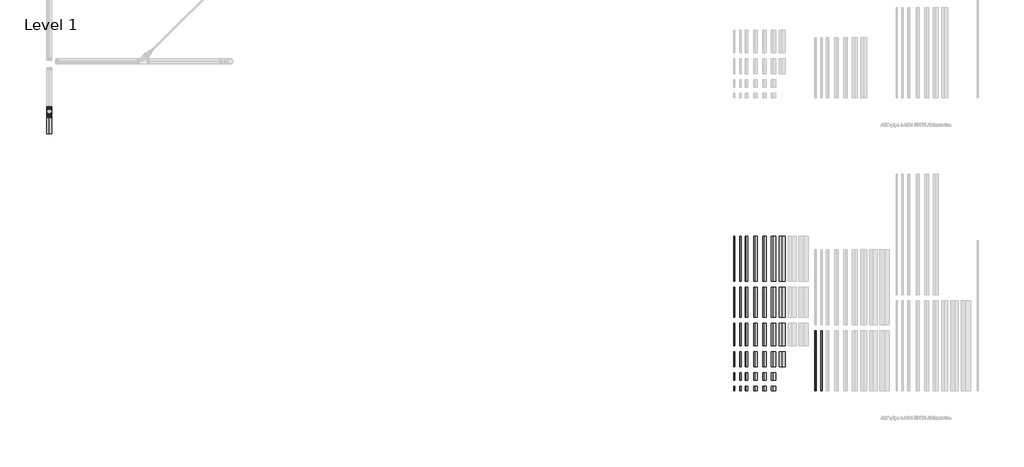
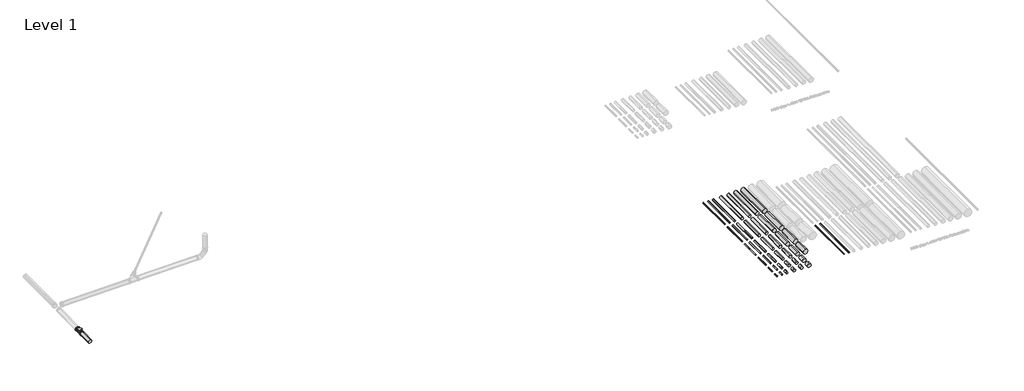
# One storey, part 1 of 13: 43 pipe segments, 3 pipe fittings.
"""IFC4 building model written with IfcOpenShell, lengths in millimetres."""

from ifc_helpers import new_model, si_unit, point, frame, frame_2d, origin, place, context, project, spatial, circle_curve, trimmed, segment, composite_curve, outline, extrude, transform, mapped, element, save
from components import pipe_fitting_1_4404_c54c82ae, std_nested_70f44cd0, std_nested_4988e8d9

model = new_model("IFC4")

# Units and contexts
model_context = context("Model", 3, world=origin())
ifc_project = project(units=[si_unit("LENGTHUNIT", "METRE", prefix="MILLI")], contexts=[model_context])

# Site, building, storey
site = spatial("IfcSite", under=ifc_project)
building = spatial("IfcBuilding", under=site)
storey = spatial("IfcBuildingStorey", under=building, Name="Level 1", Elevation=0.0)

# Pipe fittings
placement = place(None, origin())
pipe_fitting_1_4404_shape = pipe_fitting_1_4404_c54c82ae(model_context)
element("IfcPipeFitting", 1, ObjectType="PIF_ST_UN_ACO pipe access unit_ACO : 1.4404", at=placement, inside=storey, context=model_context, shape_type="MappedRepresentation", body=[
    mapped(pipe_fitting_1_4404_shape, transform((-24468.5517039, -490.1216997, 11.972552), x_axis=(0.0, 0.9998798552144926, 0.015500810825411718), y_axis=(-1.0000000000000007, 0.0, 0.0), z_axis=(0.0, -0.015500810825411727, 0.9998798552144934))),
])
std_nested_shape = std_nested_70f44cd0(model_context)
element("IfcPipeFitting", 2, ObjectType="ZZZ_do not use_PIF_ST_UN_ACO pipe socket_ACO : std (nested)", at=placement, inside=storey, context=model_context, shape_type="MappedRepresentation", body=[
    mapped(std_nested_shape, transform((-24468.5517039, -674.099593, 9.1204028), x_axis=(0.0, -0.9998798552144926, -0.015500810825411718), y_axis=(-1.0000000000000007, 0.0, 0.0), z_axis=(0.0, 0.015500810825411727, -0.9998798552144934))),
])
std_nested_2_shape = std_nested_4988e8d9(model_context)
element("IfcPipeFitting", 3, ObjectType="ZZZ_do not use_PIF_ST_UN_ACO pipe socket_ACO : std (nested)", at=placement, inside=storey, context=model_context, shape_type="MappedRepresentation", body=[
    mapped(std_nested_2_shape, transform((-24468.5517039, -386.1341947, 13.5846364), x_axis=(0.0, 0.9998798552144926, 0.015500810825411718), y_axis=(1.0000000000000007, 0.0, 0.0), z_axis=(0.0, 0.015500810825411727, -0.9998798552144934))),
])

# Pipe segments
element("IfcPipeSegment", 4, ObjectType="ACO pipe 1.4404 OD (complex)", at=placement, inside=storey, context=model_context, shape_type="SweptSolid", body=[
    extrude(outline(composite_curve([segment(trimmed(circle_curve(frame_2d((0.0, -1678.2538939)), 20.0), [point((0.0, -1658.2538939))], [point((20.0, -1678.2538939))], False, "CARTESIAN"), True, "CONTINUOUS"), segment(trimmed(circle_curve(frame_2d((0.0, -1678.2538939)), 20.0), [point((20.0, -1678.2538939))], [point((0.0, -1698.2538939))], False, "CARTESIAN"), True, "CONTINUOUS"), segment(trimmed(circle_curve(frame_2d((0.0, -1678.2538939)), 20.0), [point((0.0, -1698.2538939))], [point((-20.0, -1678.2538939))], False, "CARTESIAN"), True, "CONTINUOUS"), segment(trimmed(circle_curve(frame_2d((0.0, -1678.2538939)), 20.0), [point((-20.0, -1678.2538939))], [point((0.0, -1658.2538939))], False, "CARTESIAN"), True, "CONTINUOUS")], self_intersect=False)), frame((0.0, -9769.2114353, 0.0), z_axis=(0.0, 1.0, 0.0), x_axis=(0.0, 0.0, 1.0)), (0.0, 0.0, 1.0), 150.0),
])
element("IfcPipeSegment", 5, ObjectType="ACO pipe 1.4404 OD (complex)", at=placement, inside=storey, context=model_context, shape_type="SweptSolid", body=[
    extrude(outline(composite_curve([segment(trimmed(circle_curve(frame_2d((0.0, -1478.2538939)), 25.0), [point((0.0, -1453.2538939))], [point((25.0, -1478.2538939))], False, "CARTESIAN"), True, "CONTINUOUS"), segment(trimmed(circle_curve(frame_2d((0.0, -1478.2538939)), 25.0), [point((25.0, -1478.2538939))], [point((0.0, -1503.2538939))], False, "CARTESIAN"), True, "CONTINUOUS"), segment(trimmed(circle_curve(frame_2d((0.0, -1478.2538939)), 25.0), [point((0.0, -1503.2538939))], [point((-25.0, -1478.2538939))], False, "CARTESIAN"), True, "CONTINUOUS"), segment(trimmed(circle_curve(frame_2d((0.0, -1478.2538939)), 25.0), [point((-25.0, -1478.2538939))], [point((0.0, -1453.2538939))], False, "CARTESIAN"), True, "CONTINUOUS")], self_intersect=False)), frame((0.0, -9769.2114353, 0.0), z_axis=(0.0, 1.0, 0.0), x_axis=(0.0, 0.0, 1.0)), (0.0, 0.0, 1.0), 150.0),
])
element("IfcPipeSegment", 6, ObjectType="ACO pipe 1.4404 OD (complex)", at=placement, inside=storey, context=model_context, shape_type="SweptSolid", body=[
    extrude(outline(composite_curve([segment(trimmed(circle_curve(frame_2d((0.0, -1278.2538939)), 37.5), [point((0.0, -1240.7538939))], [point((37.5, -1278.2538939))], False, "CARTESIAN"), True, "CONTINUOUS"), segment(trimmed(circle_curve(frame_2d((0.0, -1278.2538939)), 37.5), [point((37.5, -1278.2538939))], [point((0.0, -1315.7538939))], False, "CARTESIAN"), True, "CONTINUOUS"), segment(trimmed(circle_curve(frame_2d((0.0, -1278.2538939)), 37.5), [point((0.0, -1315.7538939))], [point((-37.5, -1278.2538939))], False, "CARTESIAN"), True, "CONTINUOUS"), segment(trimmed(circle_curve(frame_2d((0.0, -1278.2538939)), 37.5), [point((-37.5, -1278.2538939))], [point((0.0, -1240.7538939))], False, "CARTESIAN"), True, "CONTINUOUS")], self_intersect=False)), frame((0.0, -9769.2114353, 0.0), z_axis=(0.0, 1.0, 0.0), x_axis=(0.0, 0.0, 1.0)), (0.0, 0.0, 1.0), 150.0),
])
element("IfcPipeSegment", 7, ObjectType="ACO pipe 1.4404 OD (complex)", at=placement, inside=storey, context=model_context, shape_type="SweptSolid", body=[
    extrude(outline(composite_curve([segment(trimmed(circle_curve(frame_2d((0.0, -978.2538939)), 55.0), [point((0.0, -923.2538939))], [point((55.0, -978.2538939))], False, "CARTESIAN"), True, "CONTINUOUS"), segment(trimmed(circle_curve(frame_2d((0.0, -978.2538939)), 55.0), [point((55.0, -978.2538939))], [point((0.0, -1033.2538939))], False, "CARTESIAN"), True, "CONTINUOUS"), segment(trimmed(circle_curve(frame_2d((0.0, -978.2538939)), 55.0), [point((0.0, -1033.2538939))], [point((-55.0, -978.2538939))], False, "CARTESIAN"), True, "CONTINUOUS"), segment(trimmed(circle_curve(frame_2d((0.0, -978.2538939)), 55.0), [point((-55.0, -978.2538939))], [point((0.0, -923.2538939))], False, "CARTESIAN"), True, "CONTINUOUS")], self_intersect=False)), frame((0.0, -9769.2114353, 0.0), z_axis=(0.0, 1.0, 0.0), x_axis=(0.0, 0.0, 1.0)), (0.0, 0.0, 1.0), 150.0),
])
element("IfcPipeSegment", 8, ObjectType="ACO pipe 1.4404 OD (complex)", at=placement, inside=storey, context=model_context, shape_type="SweptSolid", body=[
    extrude(outline(composite_curve([segment(trimmed(circle_curve(frame_2d((0.0, -678.2538939)), 62.5), [point((0.0, -615.7538939))], [point((62.5, -678.2538939))], False, "CARTESIAN"), True, "CONTINUOUS"), segment(trimmed(circle_curve(frame_2d((0.0, -678.2538939)), 62.5), [point((62.5, -678.2538939))], [point((0.0, -740.7538939))], False, "CARTESIAN"), True, "CONTINUOUS"), segment(trimmed(circle_curve(frame_2d((0.0, -678.2538939)), 62.5), [point((0.0, -740.7538939))], [point((-62.5, -678.2538939))], False, "CARTESIAN"), True, "CONTINUOUS"), segment(trimmed(circle_curve(frame_2d((0.0, -678.2538939)), 62.5), [point((-62.5, -678.2538939))], [point((0.0, -615.7538939))], False, "CARTESIAN"), True, "CONTINUOUS")], self_intersect=False)), frame((0.0, -9769.2114353, 0.0), z_axis=(0.0, 1.0, 0.0), x_axis=(0.0, 0.0, 1.0)), (0.0, 0.0, 1.0), 150.0),
])
element("IfcPipeSegment", 9, ObjectType="ACO pipe 1.4404 OD (complex)", at=placement, inside=storey, context=model_context, shape_type="SweptSolid", body=[
    extrude(outline(composite_curve([segment(trimmed(circle_curve(frame_2d((0.0, -378.2538939)), 80.0), [point((0.0, -298.2538939))], [point((80.0, -378.2538939))], False, "CARTESIAN"), True, "CONTINUOUS"), segment(trimmed(circle_curve(frame_2d((0.0, -378.2538939)), 80.0), [point((80.0, -378.2538939))], [point((0.0, -458.2538939))], False, "CARTESIAN"), True, "CONTINUOUS"), segment(trimmed(circle_curve(frame_2d((0.0, -378.2538939)), 80.0), [point((0.0, -458.2538939))], [point((-80.0, -378.2538939))], False, "CARTESIAN"), True, "CONTINUOUS"), segment(trimmed(circle_curve(frame_2d((0.0, -378.2538939)), 80.0), [point((-80.0, -378.2538939))], [point((0.0, -298.2538939))], False, "CARTESIAN"), True, "CONTINUOUS")], self_intersect=False)), frame((0.0, -9769.2114353, 0.0), z_axis=(0.0, 1.0, 0.0), x_axis=(0.0, 0.0, 1.0)), (0.0, 0.0, 1.0), 150.0),
])
element("IfcPipeSegment", 10, ObjectType="ACO pipe 1.4404 OD (complex)", at=placement, inside=storey, context=model_context, shape_type="SweptSolid", body=[
    extrude(outline(composite_curve([segment(trimmed(circle_curve(frame_2d((0.0, -1678.2538939)), 20.0), [point((0.0, -1658.2538939))], [point((20.0, -1678.2538939))], False, "CARTESIAN"), True, "CONTINUOUS"), segment(trimmed(circle_curve(frame_2d((0.0, -1678.2538939)), 20.0), [point((20.0, -1678.2538939))], [point((0.0, -1698.2538939))], False, "CARTESIAN"), True, "CONTINUOUS"), segment(trimmed(circle_curve(frame_2d((0.0, -1678.2538939)), 20.0), [point((0.0, -1698.2538939))], [point((-20.0, -1678.2538939))], False, "CARTESIAN"), True, "CONTINUOUS"), segment(trimmed(circle_curve(frame_2d((0.0, -1678.2538939)), 20.0), [point((-20.0, -1678.2538939))], [point((0.0, -1658.2538939))], False, "CARTESIAN"), True, "CONTINUOUS")], self_intersect=False)), frame((0.0, -9419.2114353, 0.0), z_axis=(0.0, 1.0, 0.0), x_axis=(0.0, 0.0, 1.0)), (0.0, 0.0, 1.0), 250.0),
])
element("IfcPipeSegment", 11, ObjectType="ACO pipe 1.4404 OD (complex)", at=placement, inside=storey, context=model_context, shape_type="SweptSolid", body=[
    extrude(outline(composite_curve([segment(trimmed(circle_curve(frame_2d((0.0, -1478.2538939)), 25.0), [point((0.0, -1453.2538939))], [point((25.0, -1478.2538939))], False, "CARTESIAN"), True, "CONTINUOUS"), segment(trimmed(circle_curve(frame_2d((0.0, -1478.2538939)), 25.0), [point((25.0, -1478.2538939))], [point((0.0, -1503.2538939))], False, "CARTESIAN"), True, "CONTINUOUS"), segment(trimmed(circle_curve(frame_2d((0.0, -1478.2538939)), 25.0), [point((0.0, -1503.2538939))], [point((-25.0, -1478.2538939))], False, "CARTESIAN"), True, "CONTINUOUS"), segment(trimmed(circle_curve(frame_2d((0.0, -1478.2538939)), 25.0), [point((-25.0, -1478.2538939))], [point((0.0, -1453.2538939))], False, "CARTESIAN"), True, "CONTINUOUS")], self_intersect=False)), frame((0.0, -9419.2114353, 0.0), z_axis=(0.0, 1.0, 0.0), x_axis=(0.0, 0.0, 1.0)), (0.0, 0.0, 1.0), 250.0),
])
element("IfcPipeSegment", 12, ObjectType="ACO pipe 1.4404 OD (complex)", at=placement, inside=storey, context=model_context, shape_type="SweptSolid", body=[
    extrude(outline(composite_curve([segment(trimmed(circle_curve(frame_2d((0.0, -1278.2538939)), 37.5), [point((0.0, -1240.7538939))], [point((37.5, -1278.2538939))], False, "CARTESIAN"), True, "CONTINUOUS"), segment(trimmed(circle_curve(frame_2d((0.0, -1278.2538939)), 37.5), [point((37.5, -1278.2538939))], [point((0.0, -1315.7538939))], False, "CARTESIAN"), True, "CONTINUOUS"), segment(trimmed(circle_curve(frame_2d((0.0, -1278.2538939)), 37.5), [point((0.0, -1315.7538939))], [point((-37.5, -1278.2538939))], False, "CARTESIAN"), True, "CONTINUOUS"), segment(trimmed(circle_curve(frame_2d((0.0, -1278.2538939)), 37.5), [point((-37.5, -1278.2538939))], [point((0.0, -1240.7538939))], False, "CARTESIAN"), True, "CONTINUOUS")], self_intersect=False)), frame((0.0, -9419.2114353, 0.0), z_axis=(0.0, 1.0, 0.0), x_axis=(0.0, 0.0, 1.0)), (0.0, 0.0, 1.0), 250.0),
])
element("IfcPipeSegment", 13, ObjectType="ACO pipe 1.4404 OD (complex)", at=placement, inside=storey, context=model_context, shape_type="SweptSolid", body=[
    extrude(outline(composite_curve([segment(trimmed(circle_curve(frame_2d((0.0, -978.2538939)), 55.0), [point((0.0, -923.2538939))], [point((55.0, -978.2538939))], False, "CARTESIAN"), True, "CONTINUOUS"), segment(trimmed(circle_curve(frame_2d((0.0, -978.2538939)), 55.0), [point((55.0, -978.2538939))], [point((0.0, -1033.2538939))], False, "CARTESIAN"), True, "CONTINUOUS"), segment(trimmed(circle_curve(frame_2d((0.0, -978.2538939)), 55.0), [point((0.0, -1033.2538939))], [point((-55.0, -978.2538939))], False, "CARTESIAN"), True, "CONTINUOUS"), segment(trimmed(circle_curve(frame_2d((0.0, -978.2538939)), 55.0), [point((-55.0, -978.2538939))], [point((0.0, -923.2538939))], False, "CARTESIAN"), True, "CONTINUOUS")], self_intersect=False)), frame((0.0, -9419.2114353, 0.0), z_axis=(0.0, 1.0, 0.0), x_axis=(0.0, 0.0, 1.0)), (0.0, 0.0, 1.0), 250.0),
])
element("IfcPipeSegment", 14, ObjectType="ACO pipe 1.4404 OD (complex)", at=placement, inside=storey, context=model_context, shape_type="SweptSolid", body=[
    extrude(outline(composite_curve([segment(trimmed(circle_curve(frame_2d((0.0, -678.2538939)), 62.5), [point((0.0, -615.7538939))], [point((62.5, -678.2538939))], False, "CARTESIAN"), True, "CONTINUOUS"), segment(trimmed(circle_curve(frame_2d((0.0, -678.2538939)), 62.5), [point((62.5, -678.2538939))], [point((0.0, -740.7538939))], False, "CARTESIAN"), True, "CONTINUOUS"), segment(trimmed(circle_curve(frame_2d((0.0, -678.2538939)), 62.5), [point((0.0, -740.7538939))], [point((-62.5, -678.2538939))], False, "CARTESIAN"), True, "CONTINUOUS"), segment(trimmed(circle_curve(frame_2d((0.0, -678.2538939)), 62.5), [point((-62.5, -678.2538939))], [point((0.0, -615.7538939))], False, "CARTESIAN"), True, "CONTINUOUS")], self_intersect=False)), frame((0.0, -9419.2114353, 0.0), z_axis=(0.0, 1.0, 0.0), x_axis=(0.0, 0.0, 1.0)), (0.0, 0.0, 1.0), 250.0),
])
element("IfcPipeSegment", 15, ObjectType="ACO pipe 1.4404 OD (complex)", at=placement, inside=storey, context=model_context, shape_type="SweptSolid", body=[
    extrude(outline(composite_curve([segment(trimmed(circle_curve(frame_2d((0.0, -378.2538939)), 80.0), [point((0.0, -298.2538939))], [point((80.0, -378.2538939))], False, "CARTESIAN"), True, "CONTINUOUS"), segment(trimmed(circle_curve(frame_2d((0.0, -378.2538939)), 80.0), [point((80.0, -378.2538939))], [point((0.0, -458.2538939))], False, "CARTESIAN"), True, "CONTINUOUS"), segment(trimmed(circle_curve(frame_2d((0.0, -378.2538939)), 80.0), [point((0.0, -458.2538939))], [point((-80.0, -378.2538939))], False, "CARTESIAN"), True, "CONTINUOUS"), segment(trimmed(circle_curve(frame_2d((0.0, -378.2538939)), 80.0), [point((-80.0, -378.2538939))], [point((0.0, -298.2538939))], False, "CARTESIAN"), True, "CONTINUOUS")], self_intersect=False)), frame((0.0, -9419.2114353, 0.0), z_axis=(0.0, 1.0, 0.0), x_axis=(0.0, 0.0, 1.0)), (0.0, 0.0, 1.0), 250.0),
])
element("IfcPipeSegment", 16, ObjectType="ACO pipe 1.4404 OD (complex)", at=placement, inside=storey, context=model_context, shape_type="SweptSolid", body=[
    extrude(outline(composite_curve([segment(trimmed(circle_curve(frame_2d((0.0, -1678.2538939)), 20.0), [point((0.0, -1658.2538939))], [point((20.0, -1678.2538939))], False, "CARTESIAN"), True, "CONTINUOUS"), segment(trimmed(circle_curve(frame_2d((0.0, -1678.2538939)), 20.0), [point((20.0, -1678.2538939))], [point((0.0, -1698.2538939))], False, "CARTESIAN"), True, "CONTINUOUS"), segment(trimmed(circle_curve(frame_2d((0.0, -1678.2538939)), 20.0), [point((0.0, -1698.2538939))], [point((-20.0, -1678.2538939))], False, "CARTESIAN"), True, "CONTINUOUS"), segment(trimmed(circle_curve(frame_2d((0.0, -1678.2538939)), 20.0), [point((-20.0, -1678.2538939))], [point((0.0, -1658.2538939))], False, "CARTESIAN"), True, "CONTINUOUS")], self_intersect=False)), frame((0.0, -8969.2114353, 0.0), z_axis=(0.0, 1.0, 0.0), x_axis=(0.0, 0.0, 1.0)), (0.0, 0.0, 1.0), 500.0),
])
element("IfcPipeSegment", 17, ObjectType="ACO pipe 1.4404 OD (complex)", at=placement, inside=storey, context=model_context, shape_type="SweptSolid", body=[
    extrude(outline(composite_curve([segment(trimmed(circle_curve(frame_2d((0.0, -1478.2538939)), 25.0), [point((0.0, -1453.2538939))], [point((25.0, -1478.2538939))], False, "CARTESIAN"), True, "CONTINUOUS"), segment(trimmed(circle_curve(frame_2d((0.0, -1478.2538939)), 25.0), [point((25.0, -1478.2538939))], [point((0.0, -1503.2538939))], False, "CARTESIAN"), True, "CONTINUOUS"), segment(trimmed(circle_curve(frame_2d((0.0, -1478.2538939)), 25.0), [point((0.0, -1503.2538939))], [point((-25.0, -1478.2538939))], False, "CARTESIAN"), True, "CONTINUOUS"), segment(trimmed(circle_curve(frame_2d((0.0, -1478.2538939)), 25.0), [point((-25.0, -1478.2538939))], [point((0.0, -1453.2538939))], False, "CARTESIAN"), True, "CONTINUOUS")], self_intersect=False)), frame((0.0, -8969.2114353, 0.0), z_axis=(0.0, 1.0, 0.0), x_axis=(0.0, 0.0, 1.0)), (0.0, 0.0, 1.0), 500.0),
])
element("IfcPipeSegment", 18, ObjectType="ACO pipe 1.4404 OD (complex)", at=placement, inside=storey, context=model_context, shape_type="SweptSolid", body=[
    extrude(outline(composite_curve([segment(trimmed(circle_curve(frame_2d((0.0, -1278.2538939)), 37.5), [point((0.0, -1240.7538939))], [point((37.5, -1278.2538939))], False, "CARTESIAN"), True, "CONTINUOUS"), segment(trimmed(circle_curve(frame_2d((0.0, -1278.2538939)), 37.5), [point((37.5, -1278.2538939))], [point((0.0, -1315.7538939))], False, "CARTESIAN"), True, "CONTINUOUS"), segment(trimmed(circle_curve(frame_2d((0.0, -1278.2538939)), 37.5), [point((0.0, -1315.7538939))], [point((-37.5, -1278.2538939))], False, "CARTESIAN"), True, "CONTINUOUS"), segment(trimmed(circle_curve(frame_2d((0.0, -1278.2538939)), 37.5), [point((-37.5, -1278.2538939))], [point((0.0, -1240.7538939))], False, "CARTESIAN"), True, "CONTINUOUS")], self_intersect=False)), frame((0.0, -8969.2114353, 0.0), z_axis=(0.0, 1.0, 0.0), x_axis=(0.0, 0.0, 1.0)), (0.0, 0.0, 1.0), 500.0),
])
element("IfcPipeSegment", 19, ObjectType="ACO pipe 1.4404 OD (complex)", at=placement, inside=storey, context=model_context, shape_type="SweptSolid", body=[
    extrude(outline(composite_curve([segment(trimmed(circle_curve(frame_2d((0.0, -978.2538939)), 55.0), [point((0.0, -923.2538939))], [point((55.0, -978.2538939))], False, "CARTESIAN"), True, "CONTINUOUS"), segment(trimmed(circle_curve(frame_2d((0.0, -978.2538939)), 55.0), [point((55.0, -978.2538939))], [point((0.0, -1033.2538939))], False, "CARTESIAN"), True, "CONTINUOUS"), segment(trimmed(circle_curve(frame_2d((0.0, -978.2538939)), 55.0), [point((0.0, -1033.2538939))], [point((-55.0, -978.2538939))], False, "CARTESIAN"), True, "CONTINUOUS"), segment(trimmed(circle_curve(frame_2d((0.0, -978.2538939)), 55.0), [point((-55.0, -978.2538939))], [point((0.0, -923.2538939))], False, "CARTESIAN"), True, "CONTINUOUS")], self_intersect=False)), frame((0.0, -8969.2114353, 0.0), z_axis=(0.0, 1.0, 0.0), x_axis=(0.0, 0.0, 1.0)), (0.0, 0.0, 1.0), 500.0),
])
element("IfcPipeSegment", 20, ObjectType="ACO pipe 1.4404 OD (complex)", at=placement, inside=storey, context=model_context, shape_type="SweptSolid", body=[
    extrude(outline(composite_curve([segment(trimmed(circle_curve(frame_2d((0.0, -678.2538939)), 62.5), [point((0.0, -615.7538939))], [point((62.5, -678.2538939))], False, "CARTESIAN"), True, "CONTINUOUS"), segment(trimmed(circle_curve(frame_2d((0.0, -678.2538939)), 62.5), [point((62.5, -678.2538939))], [point((0.0, -740.7538939))], False, "CARTESIAN"), True, "CONTINUOUS"), segment(trimmed(circle_curve(frame_2d((0.0, -678.2538939)), 62.5), [point((0.0, -740.7538939))], [point((-62.5, -678.2538939))], False, "CARTESIAN"), True, "CONTINUOUS"), segment(trimmed(circle_curve(frame_2d((0.0, -678.2538939)), 62.5), [point((-62.5, -678.2538939))], [point((0.0, -615.7538939))], False, "CARTESIAN"), True, "CONTINUOUS")], self_intersect=False)), frame((0.0, -8969.2114353, 0.0), z_axis=(0.0, 1.0, 0.0), x_axis=(0.0, 0.0, 1.0)), (0.0, 0.0, 1.0), 500.0),
])
element("IfcPipeSegment", 21, ObjectType="ACO pipe 1.4404 OD (complex)", at=placement, inside=storey, context=model_context, shape_type="SweptSolid", body=[
    extrude(outline(composite_curve([segment(trimmed(circle_curve(frame_2d((0.0, -378.2538939)), 80.0), [point((0.0, -298.2538939))], [point((80.0, -378.2538939))], False, "CARTESIAN"), True, "CONTINUOUS"), segment(trimmed(circle_curve(frame_2d((0.0, -378.2538939)), 80.0), [point((80.0, -378.2538939))], [point((0.0, -458.2538939))], False, "CARTESIAN"), True, "CONTINUOUS"), segment(trimmed(circle_curve(frame_2d((0.0, -378.2538939)), 80.0), [point((0.0, -458.2538939))], [point((-80.0, -378.2538939))], False, "CARTESIAN"), True, "CONTINUOUS"), segment(trimmed(circle_curve(frame_2d((0.0, -378.2538939)), 80.0), [point((-80.0, -378.2538939))], [point((0.0, -298.2538939))], False, "CARTESIAN"), True, "CONTINUOUS")], self_intersect=False)), frame((0.0, -8969.2114353, 0.0), z_axis=(0.0, 1.0, 0.0), x_axis=(0.0, 0.0, 1.0)), (0.0, 0.0, 1.0), 500.0),
])
element("IfcPipeSegment", 22, ObjectType="ACO pipe 1.4404 OD (complex)", at=placement, inside=storey, context=model_context, shape_type="SweptSolid", body=[
    extrude(outline(composite_curve([segment(trimmed(circle_curve(frame_2d((0.0, -78.2538939)), 100.0), [point((0.0, 21.7461061))], [point((100.0, -78.2538939))], False, "CARTESIAN"), True, "CONTINUOUS"), segment(trimmed(circle_curve(frame_2d((0.0, -78.2538939)), 100.0), [point((100.0, -78.2538939))], [point((0.0, -178.2538939))], False, "CARTESIAN"), True, "CONTINUOUS"), segment(trimmed(circle_curve(frame_2d((0.0, -78.2538939)), 100.0), [point((0.0, -178.2538939))], [point((-100.0, -78.2538939))], False, "CARTESIAN"), True, "CONTINUOUS"), segment(trimmed(circle_curve(frame_2d((0.0, -78.2538939)), 100.0), [point((-100.0, -78.2538939))], [point((0.0, 21.7461061))], False, "CARTESIAN"), True, "CONTINUOUS")], self_intersect=False)), frame((0.0, -8969.2114353, 0.0), z_axis=(0.0, 1.0, 0.0), x_axis=(0.0, 0.0, 1.0)), (0.0, 0.0, 1.0), 500.0),
])
element("IfcPipeSegment", 23, ObjectType="ACO pipe 1.4404 OD (complex)", at=placement, inside=storey, context=model_context, shape_type="SweptSolid", body=[
    extrude(outline(composite_curve([segment(trimmed(circle_curve(frame_2d((0.0, -1678.2538939)), 20.0), [point((0.0, -1658.2538939))], [point((20.0, -1678.2538939))], False, "CARTESIAN"), True, "CONTINUOUS"), segment(trimmed(circle_curve(frame_2d((0.0, -1678.2538939)), 20.0), [point((20.0, -1678.2538939))], [point((0.0, -1698.2538939))], False, "CARTESIAN"), True, "CONTINUOUS"), segment(trimmed(circle_curve(frame_2d((0.0, -1678.2538939)), 20.0), [point((0.0, -1698.2538939))], [point((-20.0, -1678.2538939))], False, "CARTESIAN"), True, "CONTINUOUS"), segment(trimmed(circle_curve(frame_2d((0.0, -1678.2538939)), 20.0), [point((-20.0, -1678.2538939))], [point((0.0, -1658.2538939))], False, "CARTESIAN"), True, "CONTINUOUS")], self_intersect=False)), frame((0.0, -8269.2114353, 0.0), z_axis=(0.0, 1.0, 0.0), x_axis=(0.0, 0.0, 1.0)), (0.0, 0.0, 1.0), 750.0),
])
element("IfcPipeSegment", 24, ObjectType="ACO pipe 1.4404 OD (complex)", at=placement, inside=storey, context=model_context, shape_type="SweptSolid", body=[
    extrude(outline(composite_curve([segment(trimmed(circle_curve(frame_2d((0.0, -1478.2538939)), 25.0), [point((0.0, -1453.2538939))], [point((25.0, -1478.2538939))], False, "CARTESIAN"), True, "CONTINUOUS"), segment(trimmed(circle_curve(frame_2d((0.0, -1478.2538939)), 25.0), [point((25.0, -1478.2538939))], [point((0.0, -1503.2538939))], False, "CARTESIAN"), True, "CONTINUOUS"), segment(trimmed(circle_curve(frame_2d((0.0, -1478.2538939)), 25.0), [point((0.0, -1503.2538939))], [point((-25.0, -1478.2538939))], False, "CARTESIAN"), True, "CONTINUOUS"), segment(trimmed(circle_curve(frame_2d((0.0, -1478.2538939)), 25.0), [point((-25.0, -1478.2538939))], [point((0.0, -1453.2538939))], False, "CARTESIAN"), True, "CONTINUOUS")], self_intersect=False)), frame((0.0, -8269.2114353, 0.0), z_axis=(0.0, 1.0, 0.0), x_axis=(0.0, 0.0, 1.0)), (0.0, 0.0, 1.0), 750.0),
])
element("IfcPipeSegment", 25, ObjectType="ACO pipe 1.4404 OD (complex)", at=placement, inside=storey, context=model_context, shape_type="SweptSolid", body=[
    extrude(outline(composite_curve([segment(trimmed(circle_curve(frame_2d((0.0, -1278.2538939)), 37.5), [point((0.0, -1240.7538939))], [point((37.5, -1278.2538939))], False, "CARTESIAN"), True, "CONTINUOUS"), segment(trimmed(circle_curve(frame_2d((0.0, -1278.2538939)), 37.5), [point((37.5, -1278.2538939))], [point((0.0, -1315.7538939))], False, "CARTESIAN"), True, "CONTINUOUS"), segment(trimmed(circle_curve(frame_2d((0.0, -1278.2538939)), 37.5), [point((0.0, -1315.7538939))], [point((-37.5, -1278.2538939))], False, "CARTESIAN"), True, "CONTINUOUS"), segment(trimmed(circle_curve(frame_2d((0.0, -1278.2538939)), 37.5), [point((-37.5, -1278.2538939))], [point((0.0, -1240.7538939))], False, "CARTESIAN"), True, "CONTINUOUS")], self_intersect=False)), frame((0.0, -8269.2114353, 0.0), z_axis=(0.0, 1.0, 0.0), x_axis=(0.0, 0.0, 1.0)), (0.0, 0.0, 1.0), 750.0),
])
element("IfcPipeSegment", 26, ObjectType="ACO pipe 1.4404 OD (complex)", at=placement, inside=storey, context=model_context, shape_type="SweptSolid", body=[
    extrude(outline(composite_curve([segment(trimmed(circle_curve(frame_2d((0.0, -978.2538939)), 55.0), [point((0.0, -923.2538939))], [point((55.0, -978.2538939))], False, "CARTESIAN"), True, "CONTINUOUS"), segment(trimmed(circle_curve(frame_2d((0.0, -978.2538939)), 55.0), [point((55.0, -978.2538939))], [point((0.0, -1033.2538939))], False, "CARTESIAN"), True, "CONTINUOUS"), segment(trimmed(circle_curve(frame_2d((0.0, -978.2538939)), 55.0), [point((0.0, -1033.2538939))], [point((-55.0, -978.2538939))], False, "CARTESIAN"), True, "CONTINUOUS"), segment(trimmed(circle_curve(frame_2d((0.0, -978.2538939)), 55.0), [point((-55.0, -978.2538939))], [point((0.0, -923.2538939))], False, "CARTESIAN"), True, "CONTINUOUS")], self_intersect=False)), frame((0.0, -8269.2114353, 0.0), z_axis=(0.0, 1.0, 0.0), x_axis=(0.0, 0.0, 1.0)), (0.0, 0.0, 1.0), 750.0),
])
element("IfcPipeSegment", 27, ObjectType="ACO pipe 1.4404 OD (complex)", at=placement, inside=storey, context=model_context, shape_type="SweptSolid", body=[
    extrude(outline(composite_curve([segment(trimmed(circle_curve(frame_2d((0.0, -678.2538939)), 62.5), [point((0.0, -615.7538939))], [point((62.5, -678.2538939))], False, "CARTESIAN"), True, "CONTINUOUS"), segment(trimmed(circle_curve(frame_2d((0.0, -678.2538939)), 62.5), [point((62.5, -678.2538939))], [point((0.0, -740.7538939))], False, "CARTESIAN"), True, "CONTINUOUS"), segment(trimmed(circle_curve(frame_2d((0.0, -678.2538939)), 62.5), [point((0.0, -740.7538939))], [point((-62.5, -678.2538939))], False, "CARTESIAN"), True, "CONTINUOUS"), segment(trimmed(circle_curve(frame_2d((0.0, -678.2538939)), 62.5), [point((-62.5, -678.2538939))], [point((0.0, -615.7538939))], False, "CARTESIAN"), True, "CONTINUOUS")], self_intersect=False)), frame((0.0, -8269.2114353, 0.0), z_axis=(0.0, 1.0, 0.0), x_axis=(0.0, 0.0, 1.0)), (0.0, 0.0, 1.0), 750.0),
])
element("IfcPipeSegment", 28, ObjectType="ACO pipe 1.4404 OD (complex)", at=placement, inside=storey, context=model_context, shape_type="SweptSolid", body=[
    extrude(outline(composite_curve([segment(trimmed(circle_curve(frame_2d((0.0, -378.2538939)), 80.0), [point((0.0, -298.2538939))], [point((80.0, -378.2538939))], False, "CARTESIAN"), True, "CONTINUOUS"), segment(trimmed(circle_curve(frame_2d((0.0, -378.2538939)), 80.0), [point((80.0, -378.2538939))], [point((0.0, -458.2538939))], False, "CARTESIAN"), True, "CONTINUOUS"), segment(trimmed(circle_curve(frame_2d((0.0, -378.2538939)), 80.0), [point((0.0, -458.2538939))], [point((-80.0, -378.2538939))], False, "CARTESIAN"), True, "CONTINUOUS"), segment(trimmed(circle_curve(frame_2d((0.0, -378.2538939)), 80.0), [point((-80.0, -378.2538939))], [point((0.0, -298.2538939))], False, "CARTESIAN"), True, "CONTINUOUS")], self_intersect=False)), frame((0.0, -8269.2114353, 0.0), z_axis=(0.0, 1.0, 0.0), x_axis=(0.0, 0.0, 1.0)), (0.0, 0.0, 1.0), 750.0),
])
element("IfcPipeSegment", 29, ObjectType="ACO pipe 1.4404 OD (complex)", at=placement, inside=storey, context=model_context, shape_type="SweptSolid", body=[
    extrude(outline(composite_curve([segment(trimmed(circle_curve(frame_2d((0.0, -78.2538939)), 100.0), [point((0.0, 21.7461061))], [point((100.0, -78.2538939))], False, "CARTESIAN"), True, "CONTINUOUS"), segment(trimmed(circle_curve(frame_2d((0.0, -78.2538939)), 100.0), [point((100.0, -78.2538939))], [point((0.0, -178.2538939))], False, "CARTESIAN"), True, "CONTINUOUS"), segment(trimmed(circle_curve(frame_2d((0.0, -78.2538939)), 100.0), [point((0.0, -178.2538939))], [point((-100.0, -78.2538939))], False, "CARTESIAN"), True, "CONTINUOUS"), segment(trimmed(circle_curve(frame_2d((0.0, -78.2538939)), 100.0), [point((-100.0, -78.2538939))], [point((0.0, 21.7461061))], False, "CARTESIAN"), True, "CONTINUOUS")], self_intersect=False)), frame((0.0, -8269.2114353, 0.0), z_axis=(0.0, 1.0, 0.0), x_axis=(0.0, 0.0, 1.0)), (0.0, 0.0, 1.0), 750.0),
])
element("IfcPipeSegment", 30, ObjectType="ACO pipe 1.4404 OD (complex)", at=placement, inside=storey, context=model_context, shape_type="SweptSolid", body=[
    extrude(outline(composite_curve([segment(trimmed(circle_curve(frame_2d((0.0, -1678.2538939)), 20.0), [point((0.0, -1658.2538939))], [point((20.0, -1678.2538939))], False, "CARTESIAN"), True, "CONTINUOUS"), segment(trimmed(circle_curve(frame_2d((0.0, -1678.2538939)), 20.0), [point((20.0, -1678.2538939))], [point((0.0, -1698.2538939))], False, "CARTESIAN"), True, "CONTINUOUS"), segment(trimmed(circle_curve(frame_2d((0.0, -1678.2538939)), 20.0), [point((0.0, -1698.2538939))], [point((-20.0, -1678.2538939))], False, "CARTESIAN"), True, "CONTINUOUS"), segment(trimmed(circle_curve(frame_2d((0.0, -1678.2538939)), 20.0), [point((-20.0, -1678.2538939))], [point((0.0, -1658.2538939))], False, "CARTESIAN"), True, "CONTINUOUS")], self_intersect=False)), frame((0.0, -7319.2114353, 0.0), z_axis=(0.0, 1.0, 0.0), x_axis=(0.0, 0.0, 1.0)), (0.0, 0.0, 1.0), 1000.0),
])
element("IfcPipeSegment", 31, ObjectType="ACO pipe 1.4404 OD (complex)", at=placement, inside=storey, context=model_context, shape_type="SweptSolid", body=[
    extrude(outline(composite_curve([segment(trimmed(circle_curve(frame_2d((0.0, -1478.2538939)), 25.0), [point((0.0, -1453.2538939))], [point((25.0, -1478.2538939))], False, "CARTESIAN"), True, "CONTINUOUS"), segment(trimmed(circle_curve(frame_2d((0.0, -1478.2538939)), 25.0), [point((25.0, -1478.2538939))], [point((0.0, -1503.2538939))], False, "CARTESIAN"), True, "CONTINUOUS"), segment(trimmed(circle_curve(frame_2d((0.0, -1478.2538939)), 25.0), [point((0.0, -1503.2538939))], [point((-25.0, -1478.2538939))], False, "CARTESIAN"), True, "CONTINUOUS"), segment(trimmed(circle_curve(frame_2d((0.0, -1478.2538939)), 25.0), [point((-25.0, -1478.2538939))], [point((0.0, -1453.2538939))], False, "CARTESIAN"), True, "CONTINUOUS")], self_intersect=False)), frame((0.0, -7319.2114353, 0.0), z_axis=(0.0, 1.0, 0.0), x_axis=(0.0, 0.0, 1.0)), (0.0, 0.0, 1.0), 1000.0),
])
element("IfcPipeSegment", 32, ObjectType="ACO pipe 1.4404 OD (complex)", at=placement, inside=storey, context=model_context, shape_type="SweptSolid", body=[
    extrude(outline(composite_curve([segment(trimmed(circle_curve(frame_2d((0.0, -1278.2538939)), 37.5), [point((0.0, -1240.7538939))], [point((37.5, -1278.2538939))], False, "CARTESIAN"), True, "CONTINUOUS"), segment(trimmed(circle_curve(frame_2d((0.0, -1278.2538939)), 37.5), [point((37.5, -1278.2538939))], [point((0.0, -1315.7538939))], False, "CARTESIAN"), True, "CONTINUOUS"), segment(trimmed(circle_curve(frame_2d((0.0, -1278.2538939)), 37.5), [point((0.0, -1315.7538939))], [point((-37.5, -1278.2538939))], False, "CARTESIAN"), True, "CONTINUOUS"), segment(trimmed(circle_curve(frame_2d((0.0, -1278.2538939)), 37.5), [point((-37.5, -1278.2538939))], [point((0.0, -1240.7538939))], False, "CARTESIAN"), True, "CONTINUOUS")], self_intersect=False)), frame((0.0, -7319.2114353, 0.0), z_axis=(0.0, 1.0, 0.0), x_axis=(0.0, 0.0, 1.0)), (0.0, 0.0, 1.0), 1000.0),
])
element("IfcPipeSegment", 33, ObjectType="ACO pipe 1.4404 OD (complex)", at=placement, inside=storey, context=model_context, shape_type="SweptSolid", body=[
    extrude(outline(composite_curve([segment(trimmed(circle_curve(frame_2d((0.0, -978.2538939)), 55.0), [point((0.0, -923.2538939))], [point((55.0, -978.2538939))], False, "CARTESIAN"), True, "CONTINUOUS"), segment(trimmed(circle_curve(frame_2d((0.0, -978.2538939)), 55.0), [point((55.0, -978.2538939))], [point((0.0, -1033.2538939))], False, "CARTESIAN"), True, "CONTINUOUS"), segment(trimmed(circle_curve(frame_2d((0.0, -978.2538939)), 55.0), [point((0.0, -1033.2538939))], [point((-55.0, -978.2538939))], False, "CARTESIAN"), True, "CONTINUOUS"), segment(trimmed(circle_curve(frame_2d((0.0, -978.2538939)), 55.0), [point((-55.0, -978.2538939))], [point((0.0, -923.2538939))], False, "CARTESIAN"), True, "CONTINUOUS")], self_intersect=False)), frame((0.0, -7319.2114353, 0.0), z_axis=(0.0, 1.0, 0.0), x_axis=(0.0, 0.0, 1.0)), (0.0, 0.0, 1.0), 1000.0),
])
element("IfcPipeSegment", 34, ObjectType="ACO pipe 1.4404 OD (complex)", at=placement, inside=storey, context=model_context, shape_type="SweptSolid", body=[
    extrude(outline(composite_curve([segment(trimmed(circle_curve(frame_2d((0.0, -678.2538939)), 62.5), [point((0.0, -615.7538939))], [point((62.5, -678.2538939))], False, "CARTESIAN"), True, "CONTINUOUS"), segment(trimmed(circle_curve(frame_2d((0.0, -678.2538939)), 62.5), [point((62.5, -678.2538939))], [point((0.0, -740.7538939))], False, "CARTESIAN"), True, "CONTINUOUS"), segment(trimmed(circle_curve(frame_2d((0.0, -678.2538939)), 62.5), [point((0.0, -740.7538939))], [point((-62.5, -678.2538939))], False, "CARTESIAN"), True, "CONTINUOUS"), segment(trimmed(circle_curve(frame_2d((0.0, -678.2538939)), 62.5), [point((-62.5, -678.2538939))], [point((0.0, -615.7538939))], False, "CARTESIAN"), True, "CONTINUOUS")], self_intersect=False)), frame((0.0, -7319.2114353, 0.0), z_axis=(0.0, 1.0, 0.0), x_axis=(0.0, 0.0, 1.0)), (0.0, 0.0, 1.0), 1000.0),
])
element("IfcPipeSegment", 35, ObjectType="ACO pipe 1.4404 OD (complex)", at=placement, inside=storey, context=model_context, shape_type="SweptSolid", body=[
    extrude(outline(composite_curve([segment(trimmed(circle_curve(frame_2d((0.0, -378.2538939)), 80.0), [point((0.0, -298.2538939))], [point((80.0, -378.2538939))], False, "CARTESIAN"), True, "CONTINUOUS"), segment(trimmed(circle_curve(frame_2d((0.0, -378.2538939)), 80.0), [point((80.0, -378.2538939))], [point((0.0, -458.2538939))], False, "CARTESIAN"), True, "CONTINUOUS"), segment(trimmed(circle_curve(frame_2d((0.0, -378.2538939)), 80.0), [point((0.0, -458.2538939))], [point((-80.0, -378.2538939))], False, "CARTESIAN"), True, "CONTINUOUS"), segment(trimmed(circle_curve(frame_2d((0.0, -378.2538939)), 80.0), [point((-80.0, -378.2538939))], [point((0.0, -298.2538939))], False, "CARTESIAN"), True, "CONTINUOUS")], self_intersect=False)), frame((0.0, -7319.2114353, 0.0), z_axis=(0.0, 1.0, 0.0), x_axis=(0.0, 0.0, 1.0)), (0.0, 0.0, 1.0), 1000.0),
])
element("IfcPipeSegment", 36, ObjectType="ACO pipe 1.4404 OD (complex)", at=placement, inside=storey, context=model_context, shape_type="SweptSolid", body=[
    extrude(outline(composite_curve([segment(trimmed(circle_curve(frame_2d((0.0, -78.2538939)), 100.0), [point((0.0, 21.7461061))], [point((100.0, -78.2538939))], False, "CARTESIAN"), True, "CONTINUOUS"), segment(trimmed(circle_curve(frame_2d((0.0, -78.2538939)), 100.0), [point((100.0, -78.2538939))], [point((0.0, -178.2538939))], False, "CARTESIAN"), True, "CONTINUOUS"), segment(trimmed(circle_curve(frame_2d((0.0, -78.2538939)), 100.0), [point((0.0, -178.2538939))], [point((-100.0, -78.2538939))], False, "CARTESIAN"), True, "CONTINUOUS"), segment(trimmed(circle_curve(frame_2d((0.0, -78.2538939)), 100.0), [point((-100.0, -78.2538939))], [point((0.0, 21.7461061))], False, "CARTESIAN"), True, "CONTINUOUS")], self_intersect=False)), frame((0.0, -7319.2114353, 0.0), z_axis=(0.0, 1.0, 0.0), x_axis=(0.0, 0.0, 1.0)), (0.0, 0.0, 1.0), 1000.0),
])
element("IfcPipeSegment", 37, ObjectType="ACO pipe 1.4404 OD (complex)", at=placement, inside=storey, context=model_context, shape_type="SweptSolid", body=[
    extrude(outline(composite_curve([segment(trimmed(circle_curve(frame_2d((0.0, -1678.2538939)), 20.0), [point((0.0, -1658.2538939))], [point((20.0, -1678.2538939))], False, "CARTESIAN"), True, "CONTINUOUS"), segment(trimmed(circle_curve(frame_2d((0.0, -1678.2538939)), 20.0), [point((20.0, -1678.2538939))], [point((0.0, -1698.2538939))], False, "CARTESIAN"), True, "CONTINUOUS"), segment(trimmed(circle_curve(frame_2d((0.0, -1678.2538939)), 20.0), [point((0.0, -1698.2538939))], [point((-20.0, -1678.2538939))], False, "CARTESIAN"), True, "CONTINUOUS"), segment(trimmed(circle_curve(frame_2d((0.0, -1678.2538939)), 20.0), [point((-20.0, -1678.2538939))], [point((0.0, -1658.2538939))], False, "CARTESIAN"), True, "CONTINUOUS")], self_intersect=False)), frame((0.0, -6119.2114353, 0.0), z_axis=(0.0, 1.0, 0.0), x_axis=(0.0, 0.0, 1.0)), (0.0, 0.0, 1.0), 1500.0),
])
element("IfcPipeSegment", 38, ObjectType="ACO pipe 1.4404 OD (complex)", at=placement, inside=storey, context=model_context, shape_type="SweptSolid", body=[
    extrude(outline(composite_curve([segment(trimmed(circle_curve(frame_2d((0.0, -1478.2538939)), 25.0), [point((0.0, -1453.2538939))], [point((25.0, -1478.2538939))], False, "CARTESIAN"), True, "CONTINUOUS"), segment(trimmed(circle_curve(frame_2d((0.0, -1478.2538939)), 25.0), [point((25.0, -1478.2538939))], [point((0.0, -1503.2538939))], False, "CARTESIAN"), True, "CONTINUOUS"), segment(trimmed(circle_curve(frame_2d((0.0, -1478.2538939)), 25.0), [point((0.0, -1503.2538939))], [point((-25.0, -1478.2538939))], False, "CARTESIAN"), True, "CONTINUOUS"), segment(trimmed(circle_curve(frame_2d((0.0, -1478.2538939)), 25.0), [point((-25.0, -1478.2538939))], [point((0.0, -1453.2538939))], False, "CARTESIAN"), True, "CONTINUOUS")], self_intersect=False)), frame((0.0, -6119.2114353, 0.0), z_axis=(0.0, 1.0, 0.0), x_axis=(0.0, 0.0, 1.0)), (0.0, 0.0, 1.0), 1500.0),
])
element("IfcPipeSegment", 39, ObjectType="ACO pipe 1.4404 OD (complex)", at=placement, inside=storey, context=model_context, shape_type="SweptSolid", body=[
    extrude(outline(composite_curve([segment(trimmed(circle_curve(frame_2d((0.0, -1278.2538939)), 37.5), [point((0.0, -1240.7538939))], [point((37.5, -1278.2538939))], False, "CARTESIAN"), True, "CONTINUOUS"), segment(trimmed(circle_curve(frame_2d((0.0, -1278.2538939)), 37.5), [point((37.5, -1278.2538939))], [point((0.0, -1315.7538939))], False, "CARTESIAN"), True, "CONTINUOUS"), segment(trimmed(circle_curve(frame_2d((0.0, -1278.2538939)), 37.5), [point((0.0, -1315.7538939))], [point((-37.5, -1278.2538939))], False, "CARTESIAN"), True, "CONTINUOUS"), segment(trimmed(circle_curve(frame_2d((0.0, -1278.2538939)), 37.5), [point((-37.5, -1278.2538939))], [point((0.0, -1240.7538939))], False, "CARTESIAN"), True, "CONTINUOUS")], self_intersect=False)), frame((0.0, -6119.2114353, 0.0), z_axis=(0.0, 1.0, 0.0), x_axis=(0.0, 0.0, 1.0)), (0.0, 0.0, 1.0), 1500.0),
])
element("IfcPipeSegment", 40, ObjectType="ACO pipe 1.4404 OD (complex)", at=placement, inside=storey, context=model_context, shape_type="SweptSolid", body=[
    extrude(outline(composite_curve([segment(trimmed(circle_curve(frame_2d((0.0, -978.2538939)), 55.0), [point((0.0, -923.2538939))], [point((55.0, -978.2538939))], False, "CARTESIAN"), True, "CONTINUOUS"), segment(trimmed(circle_curve(frame_2d((0.0, -978.2538939)), 55.0), [point((55.0, -978.2538939))], [point((0.0, -1033.2538939))], False, "CARTESIAN"), True, "CONTINUOUS"), segment(trimmed(circle_curve(frame_2d((0.0, -978.2538939)), 55.0), [point((0.0, -1033.2538939))], [point((-55.0, -978.2538939))], False, "CARTESIAN"), True, "CONTINUOUS"), segment(trimmed(circle_curve(frame_2d((0.0, -978.2538939)), 55.0), [point((-55.0, -978.2538939))], [point((0.0, -923.2538939))], False, "CARTESIAN"), True, "CONTINUOUS")], self_intersect=False)), frame((0.0, -6119.2114353, 0.0), z_axis=(0.0, 1.0, 0.0), x_axis=(0.0, 0.0, 1.0)), (0.0, 0.0, 1.0), 1500.0),
])
element("IfcPipeSegment", 41, ObjectType="ACO pipe 1.4404 OD (complex)", at=placement, inside=storey, context=model_context, shape_type="SweptSolid", body=[
    extrude(outline(composite_curve([segment(trimmed(circle_curve(frame_2d((0.0, -678.2538939)), 62.5), [point((0.0, -615.7538939))], [point((62.5, -678.2538939))], False, "CARTESIAN"), True, "CONTINUOUS"), segment(trimmed(circle_curve(frame_2d((0.0, -678.2538939)), 62.5), [point((62.5, -678.2538939))], [point((0.0, -740.7538939))], False, "CARTESIAN"), True, "CONTINUOUS"), segment(trimmed(circle_curve(frame_2d((0.0, -678.2538939)), 62.5), [point((0.0, -740.7538939))], [point((-62.5, -678.2538939))], False, "CARTESIAN"), True, "CONTINUOUS"), segment(trimmed(circle_curve(frame_2d((0.0, -678.2538939)), 62.5), [point((-62.5, -678.2538939))], [point((0.0, -615.7538939))], False, "CARTESIAN"), True, "CONTINUOUS")], self_intersect=False)), frame((0.0, -6119.2114353, 0.0), z_axis=(0.0, 1.0, 0.0), x_axis=(0.0, 0.0, 1.0)), (0.0, 0.0, 1.0), 1500.0),
])
element("IfcPipeSegment", 42, ObjectType="ACO pipe 1.4404 OD (complex)", at=placement, inside=storey, context=model_context, shape_type="SweptSolid", body=[
    extrude(outline(composite_curve([segment(trimmed(circle_curve(frame_2d((0.0, -378.2538939)), 80.0), [point((0.0, -298.2538939))], [point((80.0, -378.2538939))], False, "CARTESIAN"), True, "CONTINUOUS"), segment(trimmed(circle_curve(frame_2d((0.0, -378.2538939)), 80.0), [point((80.0, -378.2538939))], [point((0.0, -458.2538939))], False, "CARTESIAN"), True, "CONTINUOUS"), segment(trimmed(circle_curve(frame_2d((0.0, -378.2538939)), 80.0), [point((0.0, -458.2538939))], [point((-80.0, -378.2538939))], False, "CARTESIAN"), True, "CONTINUOUS"), segment(trimmed(circle_curve(frame_2d((0.0, -378.2538939)), 80.0), [point((-80.0, -378.2538939))], [point((0.0, -298.2538939))], False, "CARTESIAN"), True, "CONTINUOUS")], self_intersect=False)), frame((0.0, -6119.2114353, 0.0), z_axis=(0.0, 1.0, 0.0), x_axis=(0.0, 0.0, 1.0)), (0.0, 0.0, 1.0), 1500.0),
])
element("IfcPipeSegment", 43, ObjectType="ACO pipe 1.4404 OD (complex)", at=placement, inside=storey, context=model_context, shape_type="SweptSolid", body=[
    extrude(outline(composite_curve([segment(trimmed(circle_curve(frame_2d((0.0, -78.2538939)), 100.0), [point((0.0, 21.7461061))], [point((100.0, -78.2538939))], False, "CARTESIAN"), True, "CONTINUOUS"), segment(trimmed(circle_curve(frame_2d((0.0, -78.2538939)), 100.0), [point((100.0, -78.2538939))], [point((0.0, -178.2538939))], False, "CARTESIAN"), True, "CONTINUOUS"), segment(trimmed(circle_curve(frame_2d((0.0, -78.2538939)), 100.0), [point((0.0, -178.2538939))], [point((-100.0, -78.2538939))], False, "CARTESIAN"), True, "CONTINUOUS"), segment(trimmed(circle_curve(frame_2d((0.0, -78.2538939)), 100.0), [point((-100.0, -78.2538939))], [point((0.0, 21.7461061))], False, "CARTESIAN"), True, "CONTINUOUS")], self_intersect=False)), frame((0.0, -6119.2114353, 0.0), z_axis=(0.0, 1.0, 0.0), x_axis=(0.0, 0.0, 1.0)), (0.0, 0.0, 1.0), 1500.0),
])
element("IfcPipeSegment", 44, ObjectType="ACO pipe 1.4404 OD (complex)", at=placement, inside=storey, context=model_context, shape_type="SweptSolid", body=[
    extrude(outline(composite_curve([segment(trimmed(circle_curve(frame_2d((0.0, 1021.7461061)), 20.0), [point((0.0, 1041.7461061))], [point((20.0, 1021.7461061))], False, "CARTESIAN"), True, "CONTINUOUS"), segment(trimmed(circle_curve(frame_2d((0.0, 1021.7461061)), 20.0), [point((20.0, 1021.7461061))], [point((0.0, 1001.7461061))], False, "CARTESIAN"), True, "CONTINUOUS"), segment(trimmed(circle_curve(frame_2d((0.0, 1021.7461061)), 20.0), [point((0.0, 1001.7461061))], [point((-20.0, 1021.7461061))], False, "CARTESIAN"), True, "CONTINUOUS"), segment(trimmed(circle_curve(frame_2d((0.0, 1021.7461061)), 20.0), [point((-20.0, 1021.7461061))], [point((0.0, 1041.7461061))], False, "CARTESIAN"), True, "CONTINUOUS")], self_intersect=False)), frame((0.0, -9769.2114353, 0.0), z_axis=(0.0, 1.0, 0.0), x_axis=(0.0, 0.0, 1.0)), (0.0, 0.0, 1.0), 2000.0),
])
element("IfcPipeSegment", 45, ObjectType="ACO pipe 1.4404 OD (complex)", at=placement, inside=storey, context=model_context, shape_type="SweptSolid", body=[
    extrude(outline(composite_curve([segment(trimmed(circle_curve(frame_2d((0.0, 1221.7461061)), 25.0), [point((0.0, 1246.7461061))], [point((25.0, 1221.7461061))], False, "CARTESIAN"), True, "CONTINUOUS"), segment(trimmed(circle_curve(frame_2d((0.0, 1221.7461061)), 25.0), [point((25.0, 1221.7461061))], [point((0.0, 1196.7461061))], False, "CARTESIAN"), True, "CONTINUOUS"), segment(trimmed(circle_curve(frame_2d((0.0, 1221.7461061)), 25.0), [point((0.0, 1196.7461061))], [point((-25.0, 1221.7461061))], False, "CARTESIAN"), True, "CONTINUOUS"), segment(trimmed(circle_curve(frame_2d((0.0, 1221.7461061)), 25.0), [point((-25.0, 1221.7461061))], [point((0.0, 1246.7461061))], False, "CARTESIAN"), True, "CONTINUOUS")], self_intersect=False)), frame((0.0, -9769.2114353, 0.0), z_axis=(0.0, 1.0, 0.0), x_axis=(0.0, 0.0, 1.0)), (0.0, 0.0, 1.0), 2000.0),
])
element("IfcPipeSegment", 46, ObjectType="ACO pipe 1.4404 OD (complex)", at=placement, inside=storey, context=model_context, shape_type="SweptSolid", body=[
    extrude(outline(composite_curve([segment(trimmed(circle_curve(frame_2d((0.0, 80.0)), 80.0), [point((80.0, 80.0))], [point((0.0, 0.0))], False, "CARTESIAN"), True, "CONTINUOUS"), segment(trimmed(circle_curve(frame_2d((0.0, 80.0)), 80.0), [point((0.0, 0.0))], [point((-80.0, 80.0))], False, "CARTESIAN"), True, "CONTINUOUS"), segment(trimmed(circle_curve(frame_2d((0.0, 80.0)), 80.0), [point((-80.0, 80.0))], [point((0.0, 160.0))], False, "CARTESIAN"), True, "CONTINUOUS"), segment(trimmed(circle_curve(frame_2d((0.0, 80.0)), 80.0), [point((0.0, 160.0))], [point((80.0, 80.0))], False, "CARTESIAN"), True, "CONTINUOUS")], self_intersect=False)), frame((-24468.5517039, -1214.5478977, 80.751622), z_axis=(0.0, 0.9998798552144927, 0.015500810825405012), x_axis=(1.0, 0.0, 0.0)), (0.0, 0.0, 1.0), 539.2730307),
])

save(model, "model.ifc")
